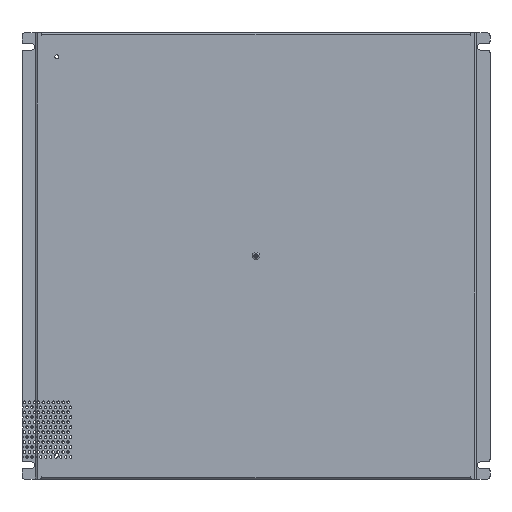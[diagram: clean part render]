
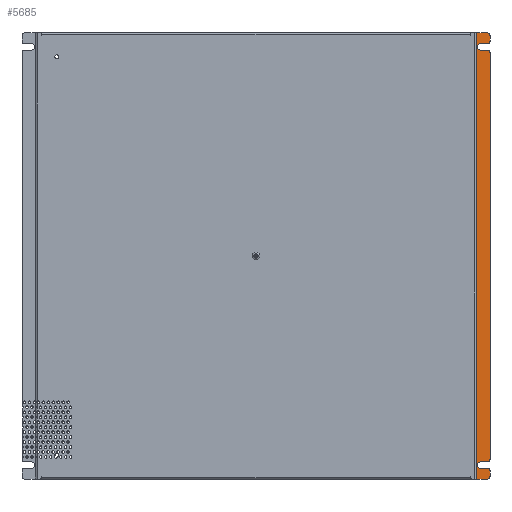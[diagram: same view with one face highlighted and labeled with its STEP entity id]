
A CAD part, top view. The second image highlights one B-rep face of the part: STEP entity #5685.
In plain terms, the highlighted planar face has unit normal (0, 0, 1).
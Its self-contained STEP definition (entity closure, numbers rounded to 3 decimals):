
#158=PLANE('',#6142);
#201=CIRCLE('',#5882,3.175);
#203=CIRCLE('',#5886,3.175);
#205=CIRCLE('',#5890,3.175);
#207=CIRCLE('',#5894,3.175);
#209=CIRCLE('',#5898,3.175);
#211=CIRCLE('',#5902,3.175);
#213=CIRCLE('',#5906,3.175);
#215=CIRCLE('',#5911,3.175);
#347=CIRCLE('',#6128,3.175);
#354=CIRCLE('',#6141,3.175);
#1072=ORIENTED_EDGE('',*,*,#2175,.T.);
#1073=ORIENTED_EDGE('',*,*,#2171,.T.);
#1074=ORIENTED_EDGE('',*,*,#2167,.F.);
#1075=ORIENTED_EDGE('',*,*,#2495,.T.);
#1076=ORIENTED_EDGE('',*,*,#2497,.F.);
#1077=ORIENTED_EDGE('',*,*,#2481,.T.);
#1078=ORIENTED_EDGE('',*,*,#2498,.T.);
#1079=ORIENTED_EDGE('',*,*,#2475,.T.);
#1080=ORIENTED_EDGE('',*,*,#2165,.F.);
#1081=ORIENTED_EDGE('',*,*,#2161,.T.);
#1082=ORIENTED_EDGE('',*,*,#2158,.T.);
#1083=ORIENTED_EDGE('',*,*,#2155,.T.);
#1084=ORIENTED_EDGE('',*,*,#2152,.T.);
#1085=ORIENTED_EDGE('',*,*,#2149,.T.);
#1086=ORIENTED_EDGE('',*,*,#2146,.T.);
#1087=ORIENTED_EDGE('',*,*,#2143,.T.);
#1088=ORIENTED_EDGE('',*,*,#2141,.F.);
#1089=ORIENTED_EDGE('',*,*,#2137,.T.);
#1090=ORIENTED_EDGE('',*,*,#2135,.T.);
#1091=ORIENTED_EDGE('',*,*,#2131,.T.);
#1092=ORIENTED_EDGE('',*,*,#2129,.T.);
#1093=ORIENTED_EDGE('',*,*,#2124,.T.);
#2124=EDGE_CURVE('',#2893,#2894,#201,.T.);
#2129=EDGE_CURVE('',#2898,#2893,#3449,.T.);
#2131=EDGE_CURVE('',#2899,#2898,#203,.T.);
#2135=EDGE_CURVE('',#2902,#2899,#3453,.T.);
#2137=EDGE_CURVE('',#2903,#2902,#205,.F.);
#2141=EDGE_CURVE('',#2903,#2906,#3457,.F.);
#2143=EDGE_CURVE('',#2907,#2906,#207,.F.);
#2146=EDGE_CURVE('',#2909,#2907,#3460,.F.);
#2149=EDGE_CURVE('',#2911,#2909,#209,.T.);
#2152=EDGE_CURVE('',#2913,#2911,#3464,.T.);
#2155=EDGE_CURVE('',#2915,#2913,#211,.T.);
#2158=EDGE_CURVE('',#2917,#2915,#3468,.T.);
#2161=EDGE_CURVE('',#2919,#2917,#213,.F.);
#2165=EDGE_CURVE('',#2919,#2922,#3473,.F.);
#2167=EDGE_CURVE('',#2923,#2924,#3475,.F.);
#2171=EDGE_CURVE('',#2927,#2924,#215,.F.);
#2175=EDGE_CURVE('',#2894,#2927,#3481,.F.);
#2475=EDGE_CURVE('',#3159,#2922,#347,.F.);
#2481=EDGE_CURVE('',#3161,#3164,#3605,.T.);
#2495=EDGE_CURVE('',#2923,#3174,#354,.F.);
#2497=EDGE_CURVE('',#3161,#3174,#3617,.F.);
#2498=EDGE_CURVE('',#3164,#3159,#3618,.F.);
#2893=VERTEX_POINT('',#8189);
#2894=VERTEX_POINT('',#8190);
#2898=VERTEX_POINT('',#8200);
#2899=VERTEX_POINT('',#8204);
#2902=VERTEX_POINT('',#8212);
#2903=VERTEX_POINT('',#8216);
#2906=VERTEX_POINT('',#8224);
#2907=VERTEX_POINT('',#8228);
#2909=VERTEX_POINT('',#8234);
#2911=VERTEX_POINT('',#8240);
#2913=VERTEX_POINT('',#8246);
#2915=VERTEX_POINT('',#8252);
#2917=VERTEX_POINT('',#8258);
#2919=VERTEX_POINT('',#8264);
#2922=VERTEX_POINT('',#8272);
#2923=VERTEX_POINT('',#8276);
#2924=VERTEX_POINT('',#8277);
#2927=VERTEX_POINT('',#8285);
#3159=VERTEX_POINT('',#11096);
#3161=VERTEX_POINT('',#11102);
#3164=VERTEX_POINT('',#11107);
#3174=VERTEX_POINT('',#11137);
#3449=LINE('',#8199,#3791);
#3453=LINE('',#8211,#3795);
#3457=LINE('',#8223,#3799);
#3460=LINE('',#8233,#3802);
#3464=LINE('',#8245,#3806);
#3468=LINE('',#8257,#3810);
#3473=LINE('',#8271,#3815);
#3475=LINE('',#8275,#3817);
#3481=LINE('',#8291,#3823);
#3605=LINE('',#11108,#3947);
#3617=LINE('',#11140,#3959);
#3618=LINE('',#11141,#3960);
#3791=VECTOR('',#6553,1000.);
#3795=VECTOR('',#6565,1000.);
#3799=VECTOR('',#6577,1000.);
#3802=VECTOR('',#6588,1000.);
#3806=VECTOR('',#6600,1000.);
#3810=VECTOR('',#6612,1000.);
#3815=VECTOR('',#6625,1000.);
#3817=VECTOR('',#6629,1000.);
#3823=VECTOR('',#6643,1000.);
#3947=VECTOR('',#7205,1000.);
#3959=VECTOR('',#7237,1000.);
#3960=VECTOR('',#7238,1000.);
#4287=EDGE_LOOP('',(#1072,#1073,#1074,#1075,#1076,#1077,#1078,#1079,#1080,
#1081,#1082,#1083,#1084,#1085,#1086,#1087,#1088,#1089,#1090,#1091,#1092,
#1093));
#4907=FACE_BOUND('',#4287,.T.);
#5685=ADVANCED_FACE('',(#4907),#158,.F.);
#5882=AXIS2_PLACEMENT_3D('',#8188,#6544,#6545);
#5886=AXIS2_PLACEMENT_3D('',#8203,#6557,#6558);
#5890=AXIS2_PLACEMENT_3D('',#8215,#6569,#6570);
#5894=AXIS2_PLACEMENT_3D('',#8227,#6581,#6582);
#5898=AXIS2_PLACEMENT_3D('',#8239,#6593,#6594);
#5902=AXIS2_PLACEMENT_3D('',#8251,#6605,#6606);
#5906=AXIS2_PLACEMENT_3D('',#8263,#6617,#6618);
#5911=AXIS2_PLACEMENT_3D('',#8284,#6635,#6636);
#6128=AXIS2_PLACEMENT_3D('',#11095,#7193,#7194);
#6141=AXIS2_PLACEMENT_3D('',#11136,#7232,#7233);
#6142=AXIS2_PLACEMENT_3D('',#11139,#7235,#7236);
#6544=DIRECTION('',(0.,0.,-1.));
#6545=DIRECTION('',(-1.,0.,0.));
#6553=DIRECTION('',(0.,1.,0.));
#6557=DIRECTION('',(0.,0.,-1.));
#6558=DIRECTION('',(-1.,0.,0.));
#6565=DIRECTION('',(-1.,0.,0.));
#6569=DIRECTION('',(0.,0.,-1.));
#6570=DIRECTION('',(-1.,0.,0.));
#6577=DIRECTION('',(0.,1.,0.));
#6581=DIRECTION('',(0.,0.,-1.));
#6582=DIRECTION('',(-1.,0.,0.));
#6588=DIRECTION('',(-1.,0.,0.));
#6593=DIRECTION('',(0.,0.,-1.));
#6594=DIRECTION('',(-1.,0.,0.));
#6600=DIRECTION('',(0.,1.,0.));
#6605=DIRECTION('',(0.,0.,-1.));
#6606=DIRECTION('',(-1.,0.,0.));
#6612=DIRECTION('',(-1.,0.,0.));
#6617=DIRECTION('',(0.,0.,-1.));
#6618=DIRECTION('',(-1.,0.,0.));
#6625=DIRECTION('',(0.,1.,0.));
#6629=DIRECTION('',(0.,1.,0.));
#6635=DIRECTION('',(0.,0.,-1.));
#6636=DIRECTION('',(-1.,0.,0.));
#6643=DIRECTION('',(-1.,0.,0.));
#7193=DIRECTION('',(0.,0.,-1.));
#7194=DIRECTION('',(-1.,0.,0.));
#7205=DIRECTION('',(0.,-1.,0.));
#7232=DIRECTION('',(0.,0.,-1.));
#7233=DIRECTION('',(-1.,0.,0.));
#7235=DIRECTION('',(0.,0.,-1.));
#7236=DIRECTION('',(-1.,0.,0.));
#7237=DIRECTION('',(-1.,0.,0.));
#7238=DIRECTION('',(-1.,0.,0.));
#8188=CARTESIAN_POINT('',(285.877,267.487,-8.28));
#8189=CARTESIAN_POINT('',(282.702,267.487,-8.28));
#8190=CARTESIAN_POINT('',(285.877,270.662,-8.28));
#8199=CARTESIAN_POINT('',(282.702,284.48,-8.28));
#8200=CARTESIAN_POINT('',(282.702,265.887,-8.28));
#8203=CARTESIAN_POINT('',(285.877,265.887,-8.28));
#8204=CARTESIAN_POINT('',(285.877,262.712,-8.28));
#8211=CARTESIAN_POINT('',(279.4,262.712,-8.28));
#8212=CARTESIAN_POINT('',(295.275,262.712,-8.28));
#8215=CARTESIAN_POINT('',(295.275,259.537,-8.28));
#8216=CARTESIAN_POINT('',(298.45,259.537,-8.28));
#8223=CARTESIAN_POINT('',(298.45,284.48,-8.28));
#8224=CARTESIAN_POINT('',(298.45,-259.537,-8.28));
#8227=CARTESIAN_POINT('',(295.275,-259.537,-8.28));
#8228=CARTESIAN_POINT('',(295.275,-262.712,-8.28));
#8233=CARTESIAN_POINT('',(279.4,-262.712,-8.28));
#8234=CARTESIAN_POINT('',(285.877,-262.712,-8.28));
#8239=CARTESIAN_POINT('',(285.877,-265.887,-8.28));
#8240=CARTESIAN_POINT('',(282.702,-265.887,-8.28));
#8245=CARTESIAN_POINT('',(282.702,284.48,-8.28));
#8246=CARTESIAN_POINT('',(282.702,-267.487,-8.28));
#8251=CARTESIAN_POINT('',(285.877,-267.487,-8.28));
#8252=CARTESIAN_POINT('',(285.877,-270.662,-8.28));
#8257=CARTESIAN_POINT('',(279.4,-270.662,-8.28));
#8258=CARTESIAN_POINT('',(295.275,-270.662,-8.28));
#8263=CARTESIAN_POINT('',(295.275,-273.837,-8.28));
#8264=CARTESIAN_POINT('',(298.45,-273.837,-8.28));
#8271=CARTESIAN_POINT('',(298.45,284.48,-8.28));
#8272=CARTESIAN_POINT('',(298.45,-281.305,-8.28));
#8275=CARTESIAN_POINT('',(298.45,284.48,-8.28));
#8276=CARTESIAN_POINT('',(298.45,281.305,-8.28));
#8277=CARTESIAN_POINT('',(298.45,273.837,-8.28));
#8284=CARTESIAN_POINT('',(295.275,273.837,-8.28));
#8285=CARTESIAN_POINT('',(295.275,270.662,-8.28));
#8291=CARTESIAN_POINT('',(279.4,270.662,-8.28));
#11095=CARTESIAN_POINT('',(295.275,-281.305,-8.28));
#11096=CARTESIAN_POINT('',(295.275,-284.48,-8.28));
#11102=CARTESIAN_POINT('',(281.584,284.48,-8.28));
#11107=CARTESIAN_POINT('',(281.584,-284.48,-8.28));
#11108=CARTESIAN_POINT('',(281.584,284.48,-8.28));
#11136=CARTESIAN_POINT('',(295.275,281.305,-8.28));
#11137=CARTESIAN_POINT('',(295.275,284.48,-8.28));
#11139=CARTESIAN_POINT('',(279.4,284.48,-8.28));
#11140=CARTESIAN_POINT('',(279.4,284.48,-8.28));
#11141=CARTESIAN_POINT('',(279.4,-284.48,-8.28));
